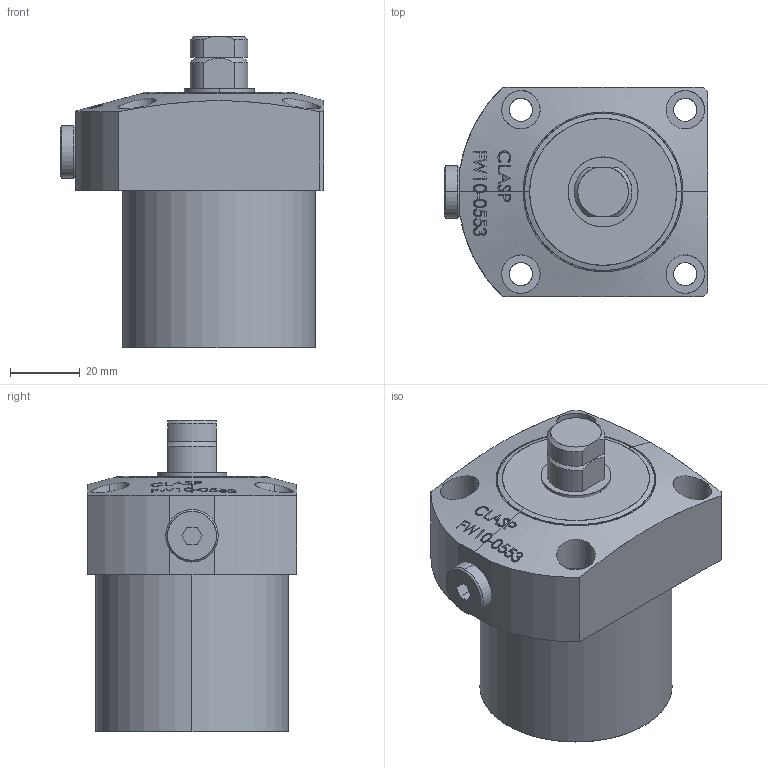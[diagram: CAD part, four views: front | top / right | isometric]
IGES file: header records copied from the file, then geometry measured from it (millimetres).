
Start section: SolidWorks IGES file using analytic representation for surfaces
Global section: file name: D:\karuppas\Clasp\3D model\Work support\Work support FW10-0553\FW10-0553 Work support.IGS; native system: SolidWorks 2017; preprocessor: SolidWorks 2017; author: pc; date: 220709.224227; units: millimetre
Bounding box: 75.5 x 60 x 89 mm (x, y, z)
Surface area: 30329.8 mm2 (no closed solid volume)
Topology: 0 solids, 0 shells, 264 faces, 4644 edges, 4642 vertices
Faces by surface type: bspline 202, revolution 62
